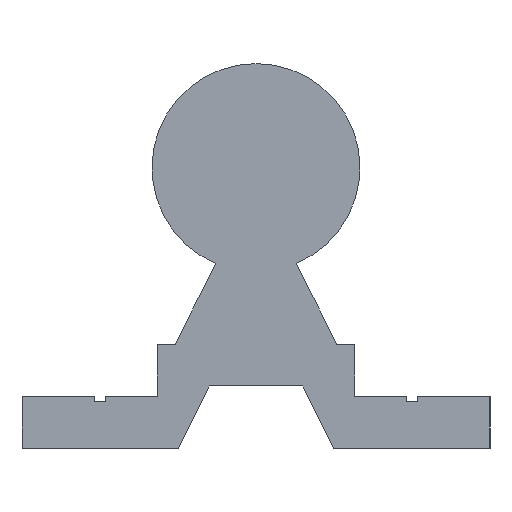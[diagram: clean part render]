
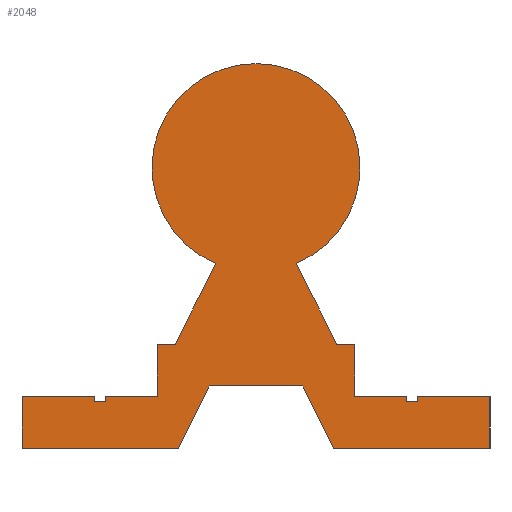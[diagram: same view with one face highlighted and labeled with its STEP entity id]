
A CAD part, left-side view. The second image highlights one B-rep face of the part: STEP entity #2048.
In plain terms, the highlighted planar face has unit normal (-1, 0, 0).
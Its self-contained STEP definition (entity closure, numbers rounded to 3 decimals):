
#51=LINE('',#2919,#215);
#61=LINE('',#2960,#225);
#86=LINE('',#3161,#250);
#156=LINE('',#3449,#320);
#160=LINE('',#3457,#324);
#163=LINE('',#3463,#327);
#166=LINE('',#3469,#330);
#169=LINE('',#3475,#333);
#173=LINE('',#3482,#337);
#176=LINE('',#3487,#340);
#178=LINE('',#3491,#342);
#179=LINE('',#3493,#343);
#180=LINE('',#3496,#344);
#183=LINE('',#3502,#347);
#186=LINE('',#3508,#350);
#189=LINE('',#3515,#353);
#193=LINE('',#3523,#357);
#196=LINE('',#3528,#360);
#199=LINE('',#3533,#363);
#201=LINE('',#3537,#365);
#202=LINE('',#3539,#366);
#203=LINE('',#3542,#367);
#206=LINE('',#3547,#370);
#215=VECTOR('',#2312,10.);
#225=VECTOR('',#2334,10.);
#250=VECTOR('',#2481,10.);
#320=VECTOR('',#2777,10.);
#324=VECTOR('',#2783,10.);
#327=VECTOR('',#2788,10.);
#330=VECTOR('',#2793,10.);
#333=VECTOR('',#2798,10.);
#337=VECTOR('',#2804,10.);
#340=VECTOR('',#2809,10.);
#342=VECTOR('',#2813,10.);
#343=VECTOR('',#2816,10.);
#344=VECTOR('',#2819,10.);
#347=VECTOR('',#2824,10.);
#350=VECTOR('',#2829,10.);
#353=VECTOR('',#2834,10.);
#357=VECTOR('',#2840,10.);
#360=VECTOR('',#2845,10.);
#363=VECTOR('',#2850,10.);
#365=VECTOR('',#2854,10.);
#366=VECTOR('',#2857,10.);
#367=VECTOR('',#2860,10.);
#370=VECTOR('',#2865,10.);
#438=PLANE('',#2282);
#536=FACE_OUTER_BOUND('',#648,.T.);
#648=EDGE_LOOP('',(#1911,#1912,#1913,#1914,#1915,#1916,#1917,#1918,#1919,
#1920,#1921,#1922,#1923,#1924,#1925,#1926,#1927,#1928,#1929,#1930,#1931,
#1932,#1933,#1934));
#763=CIRCLE('',#2279,10.);
#813=VERTEX_POINT('',#2916);
#814=VERTEX_POINT('',#2918);
#826=VERTEX_POINT('',#2957);
#827=VERTEX_POINT('',#2959);
#884=VERTEX_POINT('',#3158);
#885=VERTEX_POINT('',#3160);
#968=VERTEX_POINT('',#3447);
#969=VERTEX_POINT('',#3448);
#972=VERTEX_POINT('',#3456);
#974=VERTEX_POINT('',#3462);
#976=VERTEX_POINT('',#3468);
#978=VERTEX_POINT('',#3474);
#980=VERTEX_POINT('',#3480);
#981=VERTEX_POINT('',#3485);
#982=VERTEX_POINT('',#3489);
#983=VERTEX_POINT('',#3495);
#985=VERTEX_POINT('',#3501);
#987=VERTEX_POINT('',#3507);
#989=VERTEX_POINT('',#3513);
#990=VERTEX_POINT('',#3514);
#993=VERTEX_POINT('',#3522);
#995=VERTEX_POINT('',#3531);
#996=VERTEX_POINT('',#3535);
#997=VERTEX_POINT('',#3541);
#1016=EDGE_CURVE('',#813,#814,#51,.T.);
#1032=EDGE_CURVE('',#826,#827,#61,.T.);
#1116=EDGE_CURVE('',#884,#885,#86,.T.);
#1257=EDGE_CURVE('',#968,#969,#156,.T.);
#1261=EDGE_CURVE('',#972,#968,#160,.T.);
#1264=EDGE_CURVE('',#974,#972,#163,.T.);
#1267=EDGE_CURVE('',#976,#974,#166,.T.);
#1270=EDGE_CURVE('',#978,#976,#169,.T.);
#1274=EDGE_CURVE('',#980,#978,#173,.T.);
#1277=EDGE_CURVE('',#981,#980,#176,.T.);
#1279=EDGE_CURVE('',#982,#981,#178,.T.);
#1280=EDGE_CURVE('',#885,#982,#179,.T.);
#1281=EDGE_CURVE('',#983,#884,#180,.T.);
#1284=EDGE_CURVE('',#985,#983,#183,.T.);
#1287=EDGE_CURVE('',#987,#985,#186,.T.);
#1290=EDGE_CURVE('',#989,#990,#189,.T.);
#1294=EDGE_CURVE('',#993,#989,#193,.T.);
#1297=EDGE_CURVE('',#814,#993,#196,.T.);
#1300=EDGE_CURVE('',#995,#813,#199,.T.);
#1302=EDGE_CURVE('',#996,#995,#201,.T.);
#1303=EDGE_CURVE('',#827,#996,#202,.T.);
#1304=EDGE_CURVE('',#997,#826,#203,.T.);
#1307=EDGE_CURVE('',#969,#997,#206,.T.);
#1309=EDGE_CURVE('',#990,#987,#763,.T.);
#1911=ORIENTED_EDGE('',*,*,#1309,.F.);
#1912=ORIENTED_EDGE('',*,*,#1290,.F.);
#1913=ORIENTED_EDGE('',*,*,#1294,.F.);
#1914=ORIENTED_EDGE('',*,*,#1297,.F.);
#1915=ORIENTED_EDGE('',*,*,#1016,.F.);
#1916=ORIENTED_EDGE('',*,*,#1300,.F.);
#1917=ORIENTED_EDGE('',*,*,#1302,.F.);
#1918=ORIENTED_EDGE('',*,*,#1303,.F.);
#1919=ORIENTED_EDGE('',*,*,#1032,.F.);
#1920=ORIENTED_EDGE('',*,*,#1304,.F.);
#1921=ORIENTED_EDGE('',*,*,#1307,.F.);
#1922=ORIENTED_EDGE('',*,*,#1257,.F.);
#1923=ORIENTED_EDGE('',*,*,#1261,.F.);
#1924=ORIENTED_EDGE('',*,*,#1264,.F.);
#1925=ORIENTED_EDGE('',*,*,#1267,.F.);
#1926=ORIENTED_EDGE('',*,*,#1270,.F.);
#1927=ORIENTED_EDGE('',*,*,#1274,.F.);
#1928=ORIENTED_EDGE('',*,*,#1277,.F.);
#1929=ORIENTED_EDGE('',*,*,#1279,.F.);
#1930=ORIENTED_EDGE('',*,*,#1280,.F.);
#1931=ORIENTED_EDGE('',*,*,#1116,.F.);
#1932=ORIENTED_EDGE('',*,*,#1281,.F.);
#1933=ORIENTED_EDGE('',*,*,#1284,.F.);
#1934=ORIENTED_EDGE('',*,*,#1287,.F.);
#2048=ADVANCED_FACE('',(#536),#438,.F.);
#2279=AXIS2_PLACEMENT_3D('',#3550,#2869,#2870);
#2282=AXIS2_PLACEMENT_3D('',#3553,#2875,#2876);
#2312=DIRECTION('',(0.,-1.,0.));
#2334=DIRECTION('',(0.,-1.,0.));
#2481=DIRECTION('',(0.,-1.,0.));
#2777=DIRECTION('',(0.,0.447,-0.894));
#2783=DIRECTION('',(0.,1.,0.));
#2788=DIRECTION('',(0.,0.447,0.894));
#2793=DIRECTION('',(0.,1.,0.));
#2798=DIRECTION('',(0.,0.,-1.));
#2804=DIRECTION('',(0.,-1.,0.));
#2809=DIRECTION('',(0.,0.,1.));
#2813=DIRECTION('',(0.,-1.,0.));
#2816=DIRECTION('',(0.,0.,-1.));
#2819=DIRECTION('',(0.,0.,-1.));
#2824=DIRECTION('',(0.,-1.,0.));
#2829=DIRECTION('',(0.,-0.447,-0.894));
#2834=DIRECTION('',(0.,-0.447,0.894));
#2840=DIRECTION('',(0.,-1.,0.));
#2845=DIRECTION('',(0.,0.,1.));
#2850=DIRECTION('',(0.,0.,1.));
#2854=DIRECTION('',(0.,-1.,0.));
#2857=DIRECTION('',(0.,0.,-1.));
#2860=DIRECTION('',(0.,0.,1.));
#2865=DIRECTION('',(0.,1.,0.));
#2869=DIRECTION('center_axis',(1.,0.,0.));
#2870=DIRECTION('ref_axis',(0.,1.,0.));
#2875=DIRECTION('center_axis',(1.,0.,0.));
#2876=DIRECTION('ref_axis',(0.,0.,-1.));
#2916=CARTESIAN_POINT('',(0.,14.5,5.));
#2918=CARTESIAN_POINT('',(0.,9.5,5.));
#2919=CARTESIAN_POINT('',(0.,14.5,5.));
#2957=CARTESIAN_POINT('',(0.,22.5,5.));
#2959=CARTESIAN_POINT('',(0.,15.5,5.));
#2960=CARTESIAN_POINT('',(0.,22.5,5.));
#3158=CARTESIAN_POINT('',(0.,-9.5,5.));
#3160=CARTESIAN_POINT('',(0.,-14.5,5.));
#3161=CARTESIAN_POINT('',(0.,-9.5,5.));
#3447=CARTESIAN_POINT('',(0.,4.5,6.));
#3448=CARTESIAN_POINT('',(0.,7.5,0.));
#3449=CARTESIAN_POINT('',(0.,4.5,6.));
#3456=CARTESIAN_POINT('',(0.,-4.5,6.));
#3457=CARTESIAN_POINT('',(0.,-4.5,6.));
#3462=CARTESIAN_POINT('',(0.,-7.5,0.));
#3463=CARTESIAN_POINT('',(0.,-7.5,0.));
#3468=CARTESIAN_POINT('',(0.,-22.5,0.));
#3469=CARTESIAN_POINT('',(0.,-22.5,0.));
#3474=CARTESIAN_POINT('',(0.,-22.5,5.));
#3475=CARTESIAN_POINT('',(0.,-22.5,5.));
#3480=CARTESIAN_POINT('',(0.,-15.5,5.));
#3482=CARTESIAN_POINT('',(0.,-15.5,5.));
#3485=CARTESIAN_POINT('',(0.,-15.5,4.5));
#3487=CARTESIAN_POINT('',(0.,-15.5,4.5));
#3489=CARTESIAN_POINT('',(0.,-14.5,4.5));
#3491=CARTESIAN_POINT('',(0.,-14.5,4.5));
#3493=CARTESIAN_POINT('',(0.,-14.5,5.));
#3495=CARTESIAN_POINT('',(0.,-9.5,10.));
#3496=CARTESIAN_POINT('',(0.,-9.5,10.));
#3501=CARTESIAN_POINT('',(0.,-7.766,10.));
#3502=CARTESIAN_POINT('',(0.,-7.766,10.));
#3507=CARTESIAN_POINT('',(0.,-3.875,17.781));
#3508=CARTESIAN_POINT('',(0.,-3.875,17.781));
#3513=CARTESIAN_POINT('',(0.,7.766,10.));
#3514=CARTESIAN_POINT('',(0.,3.875,17.781));
#3515=CARTESIAN_POINT('',(0.,7.766,10.));
#3522=CARTESIAN_POINT('',(0.,9.5,10.));
#3523=CARTESIAN_POINT('',(0.,9.5,10.));
#3528=CARTESIAN_POINT('',(0.,9.5,5.));
#3531=CARTESIAN_POINT('',(0.,14.5,4.5));
#3533=CARTESIAN_POINT('',(0.,14.5,4.5));
#3535=CARTESIAN_POINT('',(0.,15.5,4.5));
#3537=CARTESIAN_POINT('',(0.,15.5,4.5));
#3539=CARTESIAN_POINT('',(0.,15.5,5.));
#3541=CARTESIAN_POINT('',(0.,22.5,0.));
#3542=CARTESIAN_POINT('',(0.,22.5,0.));
#3547=CARTESIAN_POINT('',(0.,7.5,0.));
#3550=CARTESIAN_POINT('Origin',(0.,0.,27.));
#3553=CARTESIAN_POINT('Origin',(0.,0.,27.));
